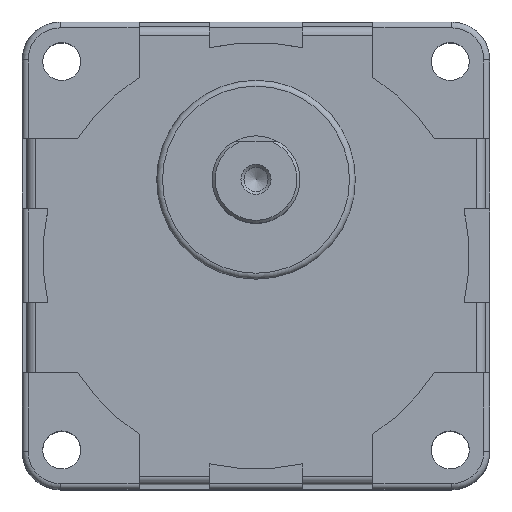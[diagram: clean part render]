
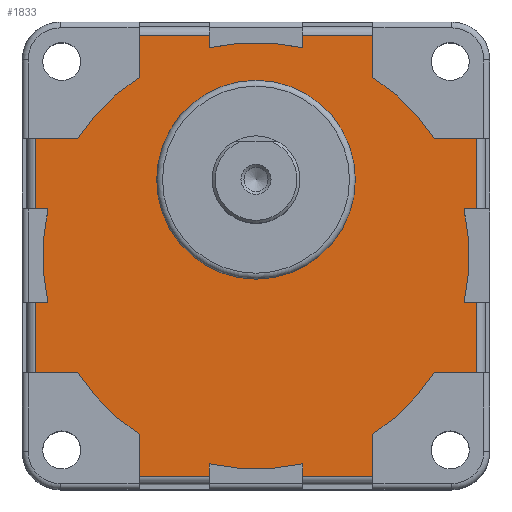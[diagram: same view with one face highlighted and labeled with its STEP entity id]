
A CAD part, top view. The second image highlights one B-rep face of the part: STEP entity #1833.
In plain terms, the highlighted planar face has unit normal (0, 0, 1).
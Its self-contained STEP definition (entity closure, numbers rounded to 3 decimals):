
#30=FACE_BOUND('',#259,.T.);
#43=PLANE('',#1987);
#148=FACE_OUTER_BOUND('',#258,.T.);
#258=EDGE_LOOP('',(#1348,#1349,#1350,#1351,#1352,#1353,#1354,#1355,#1356,
#1357,#1358,#1359,#1360,#1361,#1362,#1363,#1364,#1365,#1366,#1367,#1368,
#1369,#1370,#1371,#1372,#1373,#1374,#1375,#1376,#1377,#1378,#1379));
#259=EDGE_LOOP('',(#1380));
#362=LINE('',#2817,#542);
#366=LINE('',#2829,#546);
#368=LINE('',#2835,#548);
#369=LINE('',#2839,#549);
#370=LINE('',#2841,#550);
#371=LINE('',#2843,#551);
#372=LINE('',#2847,#552);
#373=LINE('',#2849,#553);
#374=LINE('',#2851,#554);
#375=LINE('',#2855,#555);
#376=LINE('',#2857,#556);
#377=LINE('',#2859,#557);
#378=LINE('',#2863,#558);
#379=LINE('',#2865,#559);
#380=LINE('',#2867,#560);
#381=LINE('',#2871,#561);
#382=LINE('',#2873,#562);
#383=LINE('',#2875,#563);
#384=LINE('',#2879,#564);
#385=LINE('',#2881,#565);
#386=LINE('',#2883,#566);
#387=LINE('',#2886,#567);
#388=LINE('',#2888,#568);
#389=LINE('',#2891,#569);
#542=VECTOR('',#2248,10.);
#546=VECTOR('',#2258,10.);
#548=VECTOR('',#2264,10.);
#549=VECTOR('',#2267,10.);
#550=VECTOR('',#2268,10.);
#551=VECTOR('',#2269,10.);
#552=VECTOR('',#2272,10.);
#553=VECTOR('',#2273,10.);
#554=VECTOR('',#2274,10.);
#555=VECTOR('',#2277,10.);
#556=VECTOR('',#2278,10.);
#557=VECTOR('',#2279,10.);
#558=VECTOR('',#2282,10.);
#559=VECTOR('',#2283,10.);
#560=VECTOR('',#2284,10.);
#561=VECTOR('',#2287,10.);
#562=VECTOR('',#2288,10.);
#563=VECTOR('',#2289,10.);
#564=VECTOR('',#2292,10.);
#565=VECTOR('',#2293,10.);
#566=VECTOR('',#2294,10.);
#567=VECTOR('',#2297,10.);
#568=VECTOR('',#2298,10.);
#569=VECTOR('',#2301,10.);
#731=CIRCLE('',#1978,17.);
#736=CIRCLE('',#1988,36.5);
#737=CIRCLE('',#1989,36.5);
#738=CIRCLE('',#1990,36.5);
#739=CIRCLE('',#1991,36.5);
#740=CIRCLE('',#1992,36.5);
#741=CIRCLE('',#1993,36.5);
#742=CIRCLE('',#1994,36.5);
#743=CIRCLE('',#1995,36.5);
#832=VERTEX_POINT('',#2805);
#833=VERTEX_POINT('',#2810);
#836=VERTEX_POINT('',#2815);
#840=VERTEX_POINT('',#2826);
#841=VERTEX_POINT('',#2828);
#843=VERTEX_POINT('',#2834);
#844=VERTEX_POINT('',#2836);
#845=VERTEX_POINT('',#2838);
#846=VERTEX_POINT('',#2840);
#847=VERTEX_POINT('',#2842);
#848=VERTEX_POINT('',#2844);
#849=VERTEX_POINT('',#2846);
#850=VERTEX_POINT('',#2848);
#851=VERTEX_POINT('',#2850);
#852=VERTEX_POINT('',#2852);
#853=VERTEX_POINT('',#2854);
#854=VERTEX_POINT('',#2856);
#855=VERTEX_POINT('',#2858);
#856=VERTEX_POINT('',#2860);
#857=VERTEX_POINT('',#2862);
#858=VERTEX_POINT('',#2864);
#859=VERTEX_POINT('',#2866);
#860=VERTEX_POINT('',#2868);
#861=VERTEX_POINT('',#2870);
#862=VERTEX_POINT('',#2872);
#863=VERTEX_POINT('',#2874);
#864=VERTEX_POINT('',#2876);
#865=VERTEX_POINT('',#2878);
#866=VERTEX_POINT('',#2880);
#867=VERTEX_POINT('',#2882);
#868=VERTEX_POINT('',#2884);
#869=VERTEX_POINT('',#2887);
#870=VERTEX_POINT('',#2889);
#1025=EDGE_CURVE('',#832,#832,#731,.T.);
#1029=EDGE_CURVE('',#836,#833,#362,.T.);
#1034=EDGE_CURVE('',#840,#841,#366,.T.);
#1037=EDGE_CURVE('',#836,#843,#368,.T.);
#1038=EDGE_CURVE('',#844,#843,#736,.T.);
#1039=EDGE_CURVE('',#845,#844,#369,.T.);
#1040=EDGE_CURVE('',#846,#845,#370,.T.);
#1041=EDGE_CURVE('',#847,#846,#371,.T.);
#1042=EDGE_CURVE('',#848,#847,#737,.T.);
#1043=EDGE_CURVE('',#848,#849,#372,.T.);
#1044=EDGE_CURVE('',#850,#849,#373,.T.);
#1045=EDGE_CURVE('',#850,#851,#374,.T.);
#1046=EDGE_CURVE('',#852,#851,#738,.T.);
#1047=EDGE_CURVE('',#853,#852,#375,.T.);
#1048=EDGE_CURVE('',#854,#853,#376,.T.);
#1049=EDGE_CURVE('',#855,#854,#377,.T.);
#1050=EDGE_CURVE('',#856,#855,#739,.T.);
#1051=EDGE_CURVE('',#856,#857,#378,.T.);
#1052=EDGE_CURVE('',#858,#857,#379,.T.);
#1053=EDGE_CURVE('',#858,#859,#380,.T.);
#1054=EDGE_CURVE('',#860,#859,#740,.T.);
#1055=EDGE_CURVE('',#861,#860,#381,.T.);
#1056=EDGE_CURVE('',#862,#861,#382,.T.);
#1057=EDGE_CURVE('',#863,#862,#383,.T.);
#1058=EDGE_CURVE('',#864,#863,#741,.T.);
#1059=EDGE_CURVE('',#864,#865,#384,.T.);
#1060=EDGE_CURVE('',#866,#865,#385,.T.);
#1061=EDGE_CURVE('',#866,#867,#386,.T.);
#1062=EDGE_CURVE('',#868,#867,#742,.T.);
#1063=EDGE_CURVE('',#841,#868,#387,.T.);
#1064=EDGE_CURVE('',#869,#840,#388,.T.);
#1065=EDGE_CURVE('',#870,#869,#743,.T.);
#1066=EDGE_CURVE('',#870,#833,#389,.T.);
#1348=ORIENTED_EDGE('',*,*,#1029,.F.);
#1349=ORIENTED_EDGE('',*,*,#1037,.T.);
#1350=ORIENTED_EDGE('',*,*,#1038,.F.);
#1351=ORIENTED_EDGE('',*,*,#1039,.F.);
#1352=ORIENTED_EDGE('',*,*,#1040,.F.);
#1353=ORIENTED_EDGE('',*,*,#1041,.F.);
#1354=ORIENTED_EDGE('',*,*,#1042,.F.);
#1355=ORIENTED_EDGE('',*,*,#1043,.T.);
#1356=ORIENTED_EDGE('',*,*,#1044,.F.);
#1357=ORIENTED_EDGE('',*,*,#1045,.T.);
#1358=ORIENTED_EDGE('',*,*,#1046,.F.);
#1359=ORIENTED_EDGE('',*,*,#1047,.F.);
#1360=ORIENTED_EDGE('',*,*,#1048,.F.);
#1361=ORIENTED_EDGE('',*,*,#1049,.F.);
#1362=ORIENTED_EDGE('',*,*,#1050,.F.);
#1363=ORIENTED_EDGE('',*,*,#1051,.T.);
#1364=ORIENTED_EDGE('',*,*,#1052,.F.);
#1365=ORIENTED_EDGE('',*,*,#1053,.T.);
#1366=ORIENTED_EDGE('',*,*,#1054,.F.);
#1367=ORIENTED_EDGE('',*,*,#1055,.F.);
#1368=ORIENTED_EDGE('',*,*,#1056,.F.);
#1369=ORIENTED_EDGE('',*,*,#1057,.F.);
#1370=ORIENTED_EDGE('',*,*,#1058,.F.);
#1371=ORIENTED_EDGE('',*,*,#1059,.T.);
#1372=ORIENTED_EDGE('',*,*,#1060,.F.);
#1373=ORIENTED_EDGE('',*,*,#1061,.T.);
#1374=ORIENTED_EDGE('',*,*,#1062,.F.);
#1375=ORIENTED_EDGE('',*,*,#1063,.F.);
#1376=ORIENTED_EDGE('',*,*,#1034,.F.);
#1377=ORIENTED_EDGE('',*,*,#1064,.F.);
#1378=ORIENTED_EDGE('',*,*,#1065,.F.);
#1379=ORIENTED_EDGE('',*,*,#1066,.T.);
#1380=ORIENTED_EDGE('',*,*,#1025,.F.);
#1833=ADVANCED_FACE('',(#148,#30),#43,.T.);
#1978=AXIS2_PLACEMENT_3D('',#2807,#2237,#2238);
#1987=AXIS2_PLACEMENT_3D('',#2833,#2262,#2263);
#1988=AXIS2_PLACEMENT_3D('',#2837,#2265,#2266);
#1989=AXIS2_PLACEMENT_3D('',#2845,#2270,#2271);
#1990=AXIS2_PLACEMENT_3D('',#2853,#2275,#2276);
#1991=AXIS2_PLACEMENT_3D('',#2861,#2280,#2281);
#1992=AXIS2_PLACEMENT_3D('',#2869,#2285,#2286);
#1993=AXIS2_PLACEMENT_3D('',#2877,#2290,#2291);
#1994=AXIS2_PLACEMENT_3D('',#2885,#2295,#2296);
#1995=AXIS2_PLACEMENT_3D('',#2890,#2299,#2300);
#2237=DIRECTION('center_axis',(0.,0.,1.));
#2238=DIRECTION('ref_axis',(-1.,0.,0.));
#2248=DIRECTION('',(0.,-1.,0.));
#2258=DIRECTION('',(0.,-1.,0.));
#2262=DIRECTION('center_axis',(0.,0.,1.));
#2263=DIRECTION('ref_axis',(1.,0.,0.));
#2264=DIRECTION('',(-1.,0.,0.));
#2265=DIRECTION('center_axis',(0.,0.,-1.));
#2266=DIRECTION('ref_axis',(-1.,0.,0.));
#2267=DIRECTION('',(0.,-1.,0.));
#2268=DIRECTION('',(1.,0.,0.));
#2269=DIRECTION('',(0.,1.,0.));
#2270=DIRECTION('center_axis',(0.,0.,-1.));
#2271=DIRECTION('ref_axis',(-1.,0.,0.));
#2272=DIRECTION('',(0.,1.,0.));
#2273=DIRECTION('',(1.,0.,0.));
#2274=DIRECTION('',(0.,-1.,0.));
#2275=DIRECTION('center_axis',(0.,0.,-1.));
#2276=DIRECTION('ref_axis',(-1.,0.,0.));
#2277=DIRECTION('',(1.,0.,0.));
#2278=DIRECTION('',(0.,1.,0.));
#2279=DIRECTION('',(-1.,0.,0.));
#2280=DIRECTION('center_axis',(0.,0.,-1.));
#2281=DIRECTION('ref_axis',(-1.,0.,0.));
#2282=DIRECTION('',(-1.,0.,0.));
#2283=DIRECTION('',(0.,1.,0.));
#2284=DIRECTION('',(1.,0.,0.));
#2285=DIRECTION('center_axis',(0.,0.,-1.));
#2286=DIRECTION('ref_axis',(-1.,0.,0.));
#2287=DIRECTION('',(0.,1.,0.));
#2288=DIRECTION('',(-1.,0.,0.));
#2289=DIRECTION('',(0.,-1.,0.));
#2290=DIRECTION('center_axis',(0.,0.,-1.));
#2291=DIRECTION('ref_axis',(-1.,0.,0.));
#2292=DIRECTION('',(0.,-1.,0.));
#2293=DIRECTION('',(-1.,0.,0.));
#2294=DIRECTION('',(0.,1.,0.));
#2295=DIRECTION('center_axis',(0.,0.,-1.));
#2296=DIRECTION('ref_axis',(-1.,0.,0.));
#2297=DIRECTION('',(-1.,0.,0.));
#2298=DIRECTION('',(1.,0.,0.));
#2299=DIRECTION('center_axis',(0.,0.,-1.));
#2300=DIRECTION('ref_axis',(-1.,0.,0.));
#2301=DIRECTION('',(1.,0.,0.));
#2805=CARTESIAN_POINT('',(17.,13.,50.2));
#2807=CARTESIAN_POINT('Origin',(0.,13.,50.2));
#2810=CARTESIAN_POINT('',(37.7,8.,50.2));
#2815=CARTESIAN_POINT('',(37.7,20.,50.2));
#2817=CARTESIAN_POINT('',(37.7,10.,50.2));
#2826=CARTESIAN_POINT('',(37.7,-8.,50.2));
#2828=CARTESIAN_POINT('',(37.7,-20.,50.2));
#2829=CARTESIAN_POINT('',(37.7,-10.,50.2));
#2833=CARTESIAN_POINT('Origin',(0.,0.,50.2));
#2834=CARTESIAN_POINT('',(30.533,20.,50.2));
#2835=CARTESIAN_POINT('',(30.533,20.,50.2));
#2836=CARTESIAN_POINT('',(20.,30.533,50.2));
#2837=CARTESIAN_POINT('Origin',(0.,0.,50.2));
#2838=CARTESIAN_POINT('',(20.,37.7,50.2));
#2839=CARTESIAN_POINT('',(20.,30.533,50.2));
#2840=CARTESIAN_POINT('',(8.,37.7,50.2));
#2841=CARTESIAN_POINT('',(10.,37.7,50.2));
#2842=CARTESIAN_POINT('',(8.,35.612,50.2));
#2843=CARTESIAN_POINT('',(8.,40.,50.2));
#2844=CARTESIAN_POINT('',(-8.,35.612,50.2));
#2845=CARTESIAN_POINT('Origin',(0.,0.,50.2));
#2846=CARTESIAN_POINT('',(-8.,37.7,50.2));
#2847=CARTESIAN_POINT('',(-8.,40.,50.2));
#2848=CARTESIAN_POINT('',(-20.,37.7,50.2));
#2849=CARTESIAN_POINT('',(-10.,37.7,50.2));
#2850=CARTESIAN_POINT('',(-20.,30.533,50.2));
#2851=CARTESIAN_POINT('',(-20.,30.533,50.2));
#2852=CARTESIAN_POINT('',(-30.533,20.,50.2));
#2853=CARTESIAN_POINT('Origin',(0.,0.,50.2));
#2854=CARTESIAN_POINT('',(-37.7,20.,50.2));
#2855=CARTESIAN_POINT('',(-30.533,20.,50.2));
#2856=CARTESIAN_POINT('',(-37.7,8.,50.2));
#2857=CARTESIAN_POINT('',(-37.7,10.,50.2));
#2858=CARTESIAN_POINT('',(-35.612,8.,50.2));
#2859=CARTESIAN_POINT('',(-40.,8.,50.2));
#2860=CARTESIAN_POINT('',(-35.612,-8.,50.2));
#2861=CARTESIAN_POINT('Origin',(0.,0.,50.2));
#2862=CARTESIAN_POINT('',(-37.7,-8.,50.2));
#2863=CARTESIAN_POINT('',(-40.,-8.,50.2));
#2864=CARTESIAN_POINT('',(-37.7,-20.,50.2));
#2865=CARTESIAN_POINT('',(-37.7,-10.,50.2));
#2866=CARTESIAN_POINT('',(-30.533,-20.,50.2));
#2867=CARTESIAN_POINT('',(-30.533,-20.,50.2));
#2868=CARTESIAN_POINT('',(-20.,-30.533,50.2));
#2869=CARTESIAN_POINT('Origin',(0.,0.,50.2));
#2870=CARTESIAN_POINT('',(-20.,-37.7,50.2));
#2871=CARTESIAN_POINT('',(-20.,-30.533,50.2));
#2872=CARTESIAN_POINT('',(-8.,-37.7,50.2));
#2873=CARTESIAN_POINT('',(-10.,-37.7,50.2));
#2874=CARTESIAN_POINT('',(-8.,-35.612,50.2));
#2875=CARTESIAN_POINT('',(-8.,-40.,50.2));
#2876=CARTESIAN_POINT('',(8.,-35.612,50.2));
#2877=CARTESIAN_POINT('Origin',(0.,0.,50.2));
#2878=CARTESIAN_POINT('',(8.,-37.7,50.2));
#2879=CARTESIAN_POINT('',(8.,-40.,50.2));
#2880=CARTESIAN_POINT('',(20.,-37.7,50.2));
#2881=CARTESIAN_POINT('',(10.,-37.7,50.2));
#2882=CARTESIAN_POINT('',(20.,-30.533,50.2));
#2883=CARTESIAN_POINT('',(20.,-30.533,50.2));
#2884=CARTESIAN_POINT('',(30.533,-20.,50.2));
#2885=CARTESIAN_POINT('Origin',(0.,0.,50.2));
#2886=CARTESIAN_POINT('',(30.533,-20.,50.2));
#2887=CARTESIAN_POINT('',(35.612,-8.,50.2));
#2888=CARTESIAN_POINT('',(40.,-8.,50.2));
#2889=CARTESIAN_POINT('',(35.612,8.,50.2));
#2890=CARTESIAN_POINT('Origin',(0.,0.,50.2));
#2891=CARTESIAN_POINT('',(40.,8.,50.2));
